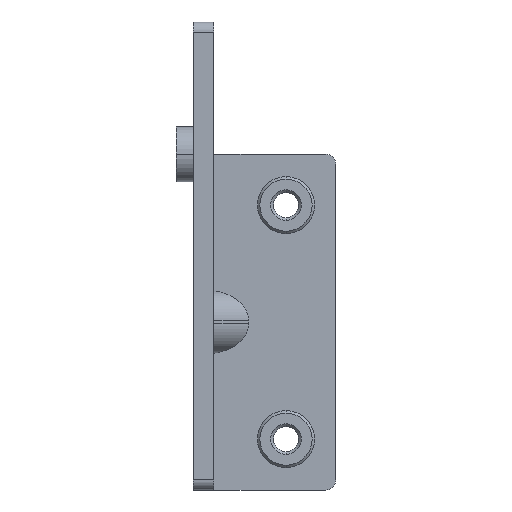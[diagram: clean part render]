
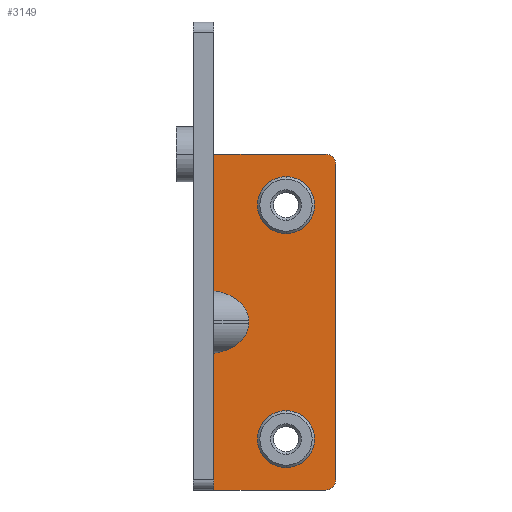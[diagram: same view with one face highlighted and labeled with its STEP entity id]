
A CAD part, left-side view. The second image highlights one B-rep face of the part: STEP entity #3149.
In plain terms, the highlighted planar face has unit normal (-1, 0, 0).
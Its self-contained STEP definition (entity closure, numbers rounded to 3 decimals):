
#2052=CARTESIAN_POINT('',(214.8,64.1,-49.577));
#2100=CARTESIAN_POINT('',(214.8,64.1,-43.423));
#2106=CARTESIAN_POINT('',(214.8,60.672,-46.367));
#2107=CARTESIAN_POINT('',(214.8,60.672,-46.286));
#2108=CARTESIAN_POINT('',(214.8,60.681,-46.124));
#2109=CARTESIAN_POINT('',(214.8,60.723,-45.88));
#2110=CARTESIAN_POINT('',(214.8,60.795,-45.635));
#2111=CARTESIAN_POINT('',(214.8,60.897,-45.391));
#2112=CARTESIAN_POINT('',(214.8,61.033,-45.146));
#2113=CARTESIAN_POINT('',(214.8,61.204,-44.903));
#2114=CARTESIAN_POINT('',(214.8,61.415,-44.663));
#2115=CARTESIAN_POINT('',(214.8,61.667,-44.429));
#2116=CARTESIAN_POINT('',(214.8,61.964,-44.204));
#2117=CARTESIAN_POINT('',(214.8,62.306,-43.993));
#2118=CARTESIAN_POINT('',(214.8,62.695,-43.803));
#2119=CARTESIAN_POINT('',(214.8,63.127,-43.639));
#2120=CARTESIAN_POINT('',(214.8,63.596,-43.508));
#2121=CARTESIAN_POINT('',(214.8,63.929,-43.447));
#2122=CARTESIAN_POINT('',(214.8,64.1,-43.423));
#2124=DIRECTION('',(0.,0.,1.));
#2125=VECTOR('',#2124,13.423);
#2126=CARTESIAN_POINT('',(214.8,64.1,-43.423));
#2127=LINE('',#2126,#2125);
#2128=CARTESIAN_POINT('',(214.8,53.1,-31.));
#2129=DIRECTION('',(1.,0.,0.));
#2130=DIRECTION('',(0.,0.,1.));
#2131=AXIS2_PLACEMENT_3D('',#2128,#2129,#2130);
#2133=CARTESIAN_POINT('',(214.8,53.1,-62.));
#2134=DIRECTION('',(1.,0.,0.));
#2135=DIRECTION('',(0.,-1.,0.));
#2136=AXIS2_PLACEMENT_3D('',#2133,#2134,#2135);
#2138=DIRECTION('',(0.,0.,1.));
#2139=VECTOR('',#2138,13.423);
#2140=CARTESIAN_POINT('',(214.8,64.1,-63.));
#2141=LINE('',#2140,#2139);
#2142=CARTESIAN_POINT('',(214.8,57.,-35.));
#2143=DIRECTION('',(-1.,0.,0.));
#2144=DIRECTION('',(0.,0.,-1.));
#2145=AXIS2_PLACEMENT_3D('',#2142,#2143,#2144);
#2147=CARTESIAN_POINT('',(214.8,57.,-35.));
#2148=DIRECTION('',(-1.,0.,0.));
#2149=DIRECTION('',(0.,0.,1.));
#2150=AXIS2_PLACEMENT_3D('',#2147,#2148,#2149);
#2152=CARTESIAN_POINT('',(214.8,57.,-58.));
#2153=DIRECTION('',(-1.,0.,0.));
#2154=DIRECTION('',(0.,0.,-1.));
#2155=AXIS2_PLACEMENT_3D('',#2152,#2153,#2154);
#2157=CARTESIAN_POINT('',(214.8,57.,-58.));
#2158=DIRECTION('',(-1.,0.,0.));
#2159=DIRECTION('',(0.,0.,1.));
#2160=AXIS2_PLACEMENT_3D('',#2157,#2158,#2159);
#2162=CARTESIAN_POINT('',(214.8,60.672,-46.633));
#2163=CARTESIAN_POINT('',(214.8,60.672,-46.714));
#2164=CARTESIAN_POINT('',(214.8,60.681,-46.876));
#2165=CARTESIAN_POINT('',(214.8,60.723,-47.12));
#2166=CARTESIAN_POINT('',(214.8,60.795,-47.365));
#2167=CARTESIAN_POINT('',(214.8,60.897,-47.609));
#2168=CARTESIAN_POINT('',(214.8,61.033,-47.854));
#2169=CARTESIAN_POINT('',(214.8,61.204,-48.097));
#2170=CARTESIAN_POINT('',(214.8,61.415,-48.337));
#2171=CARTESIAN_POINT('',(214.8,61.667,-48.571));
#2172=CARTESIAN_POINT('',(214.8,61.964,-48.796));
#2173=CARTESIAN_POINT('',(214.8,62.306,-49.006));
#2174=CARTESIAN_POINT('',(214.8,62.695,-49.197));
#2175=CARTESIAN_POINT('',(214.8,63.127,-49.361));
#2176=CARTESIAN_POINT('',(214.8,63.596,-49.492));
#2177=CARTESIAN_POINT('',(214.8,63.929,-49.553));
#2178=CARTESIAN_POINT('',(214.8,64.1,-49.577));
#2180=DIRECTION('',(0.,0.,-1.));
#2181=VECTOR('',#2180,0.265);
#2182=CARTESIAN_POINT('',(214.8,60.672,-46.367));
#2183=LINE('',#2182,#2181);
#2192=DIRECTION('',(0.,1.,0.));
#2193=VECTOR('',#2192,11.);
#2194=CARTESIAN_POINT('',(214.8,53.1,-30.));
#2195=LINE('',#2194,#2193);
#2426=DIRECTION('',(0.,-1.,0.));
#2427=VECTOR('',#2426,11.);
#2428=CARTESIAN_POINT('',(214.8,64.1,-63.));
#2429=LINE('',#2428,#2427);
#2434=DIRECTION('',(0.,0.,1.));
#2435=VECTOR('',#2434,31.);
#2436=CARTESIAN_POINT('',(214.8,52.1,-62.));
#2437=LINE('',#2436,#2435);
#2835=VERTEX_POINT('',#2100);
#2838=VERTEX_POINT('',#2052);
#2840=CARTESIAN_POINT('',(214.8,64.1,-63.));
#2842=VERTEX_POINT('',#2840);
#2855=CARTESIAN_POINT('',(214.8,64.1,-30.));
#2857=VERTEX_POINT('',#2855);
#2973=CARTESIAN_POINT('',(214.8,57.,-32.89));
#2974=VERTEX_POINT('',#2973);
#2975=CARTESIAN_POINT('',(214.8,57.,-37.11));
#2976=VERTEX_POINT('',#2975);
#2977=CARTESIAN_POINT('',(214.8,57.,-60.11));
#2978=CARTESIAN_POINT('',(214.8,57.,-55.89));
#2979=VERTEX_POINT('',#2977);
#2980=VERTEX_POINT('',#2978);
#2981=VERTEX_POINT('',#2162);
#2982=CARTESIAN_POINT('',(214.8,60.672,-46.367));
#2983=VERTEX_POINT('',#2982);
#2984=CARTESIAN_POINT('',(214.8,53.1,-30.));
#2985=VERTEX_POINT('',#2984);
#2986=CARTESIAN_POINT('',(214.8,52.1,-31.));
#2987=VERTEX_POINT('',#2986);
#2988=CARTESIAN_POINT('',(214.8,52.1,-62.));
#2989=VERTEX_POINT('',#2988);
#2990=CARTESIAN_POINT('',(214.8,53.1,-63.));
#2991=VERTEX_POINT('',#2990);
#3113=CARTESIAN_POINT('',(214.8,58.1,-46.5));
#3114=DIRECTION('',(1.,0.,0.));
#3115=DIRECTION('',(0.,-1.,0.));
#3116=AXIS2_PLACEMENT_3D('',#3113,#3114,#3115);
#3117=PLANE('',#3116);
#3119=ORIENTED_EDGE('',*,*,#3118,.F.);
#3121=ORIENTED_EDGE('',*,*,#3120,.F.);
#3122=ORIENTED_EDGE('',*,*,#3099,.T.);
#3123=ORIENTED_EDGE('',*,*,#3047,.T.);
#3125=ORIENTED_EDGE('',*,*,#3124,.F.);
#3127=ORIENTED_EDGE('',*,*,#3126,.T.);
#3129=ORIENTED_EDGE('',*,*,#3128,.F.);
#3131=ORIENTED_EDGE('',*,*,#3130,.T.);
#3133=ORIENTED_EDGE('',*,*,#3132,.F.);
#3134=ORIENTED_EDGE('',*,*,#3027,.T.);
#3135=EDGE_LOOP('',(#3119,#3121,#3122,#3123,#3125,#3127,#3129,#3131,#3133,
#3134));
#3136=FACE_OUTER_BOUND('',#3135,.F.);
#3138=ORIENTED_EDGE('',*,*,#3137,.T.);
#3140=ORIENTED_EDGE('',*,*,#3139,.T.);
#3141=EDGE_LOOP('',(#3138,#3140));
#3142=FACE_BOUND('',#3141,.F.);
#3144=ORIENTED_EDGE('',*,*,#3143,.T.);
#3146=ORIENTED_EDGE('',*,*,#3145,.T.);
#3147=EDGE_LOOP('',(#3144,#3146));
#3148=FACE_BOUND('',#3147,.F.);
#2123=B_SPLINE_CURVE_WITH_KNOTS('',3,(#2106,#2107,#2108,#2109,#2110,#2111,#2112,
#2113,#2114,#2115,#2116,#2117,#2118,#2119,#2120,#2121,#2122),.UNSPECIFIED.,.F.,
.F.,(4,1,1,1,1,1,1,1,1,1,1,1,1,1,4),(0.,0.071,0.143,
0.214,0.286,0.357,0.429,0.5,
0.571,0.643,0.714,0.786,
0.857,0.929,1.),.UNSPECIFIED.);
#2132=CIRCLE('',#2131,1.);
#2137=CIRCLE('',#2136,1.);
#2146=CIRCLE('',#2145,2.11);
#2151=CIRCLE('',#2150,2.11);
#2156=CIRCLE('',#2155,2.11);
#2161=CIRCLE('',#2160,2.11);
#2179=B_SPLINE_CURVE_WITH_KNOTS('',3,(#2162,#2163,#2164,#2165,#2166,#2167,#2168,
#2169,#2170,#2171,#2172,#2173,#2174,#2175,#2176,#2177,#2178),.UNSPECIFIED.,.F.,
.F.,(4,1,1,1,1,1,1,1,1,1,1,1,1,1,4),(0.,0.071,0.143,
0.214,0.286,0.357,0.429,0.5,
0.571,0.643,0.714,0.786,
0.857,0.929,1.),.UNSPECIFIED.);
#3027=EDGE_CURVE('',#2842,#2838,#2141,.T.);
#3047=EDGE_CURVE('',#2835,#2857,#2127,.T.);
#3099=EDGE_CURVE('',#2983,#2835,#2123,.T.);
#3118=EDGE_CURVE('',#2981,#2838,#2179,.T.);
#3120=EDGE_CURVE('',#2983,#2981,#2183,.T.);
#3124=EDGE_CURVE('',#2985,#2857,#2195,.T.);
#3126=EDGE_CURVE('',#2985,#2987,#2132,.T.);
#3128=EDGE_CURVE('',#2989,#2987,#2437,.T.);
#3130=EDGE_CURVE('',#2989,#2991,#2137,.T.);
#3132=EDGE_CURVE('',#2842,#2991,#2429,.T.);
#3137=EDGE_CURVE('',#2976,#2974,#2146,.T.);
#3139=EDGE_CURVE('',#2974,#2976,#2151,.T.);
#3143=EDGE_CURVE('',#2979,#2980,#2156,.T.);
#3145=EDGE_CURVE('',#2980,#2979,#2161,.T.);
#3149=ADVANCED_FACE('',(#3136,#3142,#3148),#3117,.F.);
